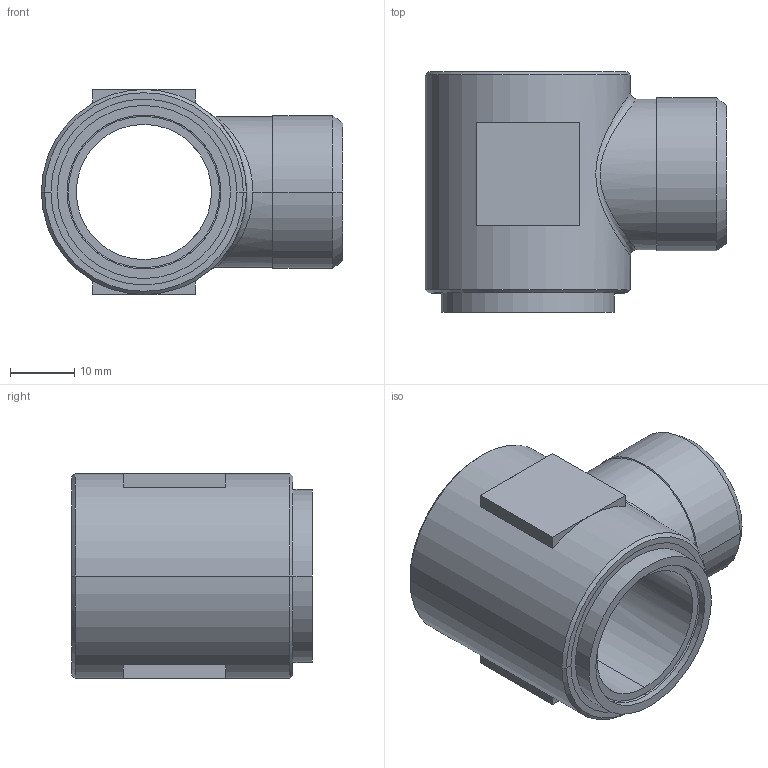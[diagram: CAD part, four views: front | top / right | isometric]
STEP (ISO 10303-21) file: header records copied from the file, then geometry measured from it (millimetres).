
FILE_DESCRIPTION((''),'2;1');
FILE_NAME('101319.stp','2007-10-30T15:39:35',(''),(''),'AutoCAD STEP 2000i','AutoCAD 2000i',', , ');
FILE_SCHEMA(('CONFIG_CONTROL_DESIGN'));
Length unit declared in the file: millimetre
Products named in the file (2): 101319.0; 1094#0
Assembly tree (1 placements, depth 2):
  101319.0
    1094#0
Bounding box: 47 x 37.5 x 32 mm (x, y, z)
Volume: 20380.2 mm3; surface area: 9063.5 mm2
Topology: 1 solids, 1 shells, 55 faces, 127 edges, 79 vertices
Faces by surface type: plane 20, cylinder 16, cone 14, bspline 5
Entity records: 2096 total; most frequent: CARTESIAN_POINT 711, DIRECTION 285, ORIENTED_EDGE 254, EDGE_CURVE 127, AXIS2_PLACEMENT_3D 115, VERTEX_POINT 79, EDGE_LOOP 64, CIRCLE 63
